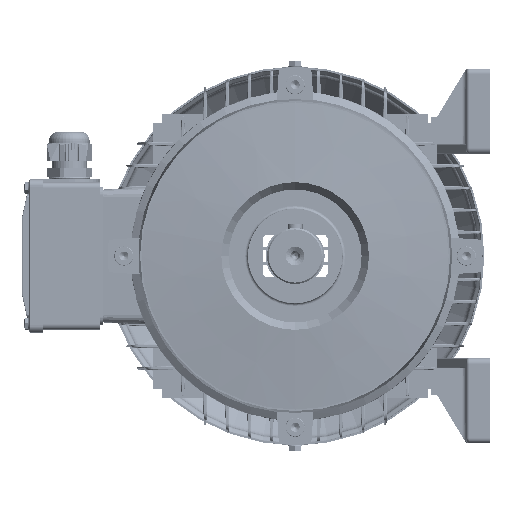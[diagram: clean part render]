
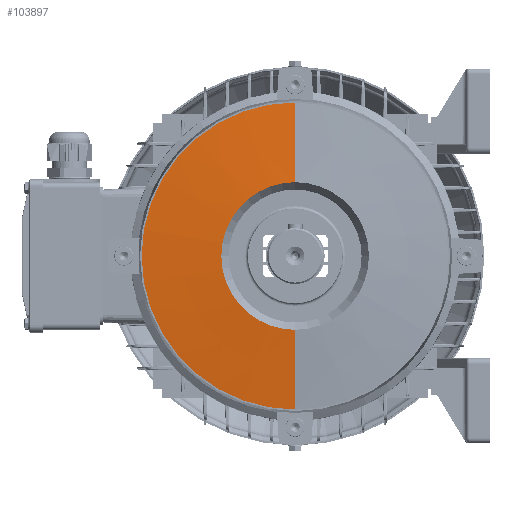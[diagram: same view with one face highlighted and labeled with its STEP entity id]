
A CAD part, left-side view. The second image highlights one B-rep face of the part: STEP entity #103897.
In plain terms, the highlighted conical face has half-angle 84.71 degrees and reference radius 104 mm.
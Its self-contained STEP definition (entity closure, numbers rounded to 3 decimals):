
#1536 = DIRECTION ( 'NONE',  ( -1., 0., 0. ) ) ;
#2213 = CARTESIAN_POINT ( 'NONE',  ( -8., 0., -104. ) ) ;
#3119 = ORIENTED_EDGE ( 'NONE', *, *, #77546, .F. ) ;
#8039 = EDGE_CURVE ( 'NONE', #22154, #135279, #122280, .T. ) ;
#10344 = CIRCLE ( 'NONE', #140177, 104. ) ;
#12281 = CONICAL_SURFACE ( 'NONE', #79478, 104., 1.478 ) ;
#22154 = VERTEX_POINT ( 'NONE', #83812 ) ;
#27076 = ORIENTED_EDGE ( 'NONE', *, *, #80352, .T. ) ;
#36102 = CARTESIAN_POINT ( 'NONE',  ( -8., 0., 0. ) ) ;
#41076 = VERTEX_POINT ( 'NONE', #66640 ) ;
#41285 = DIRECTION ( 'NONE',  ( 0.092, 0., -0.996 ) ) ;
#47767 = CARTESIAN_POINT ( 'NONE',  ( -13., 0., 50. ) ) ;
#54412 = EDGE_CURVE ( 'NONE', #41076, #135279, #10344, .T. ) ;
#56931 = DIRECTION ( 'NONE',  ( 1., 0., 0. ) ) ;
#57456 = DIRECTION ( 'NONE',  ( 0., 0., -1. ) ) ;
#59204 = VECTOR ( 'NONE', #41285, 1000. ) ;
#59308 = CIRCLE ( 'NONE', #98179, 50. ) ;
#60905 = DIRECTION ( 'NONE',  ( 0., 0., 1. ) ) ;
#66602 = CARTESIAN_POINT ( 'NONE',  ( -8., 0., -104. ) ) ;
#66640 = CARTESIAN_POINT ( 'NONE',  ( -8., 0., 104. ) ) ;
#70287 = VERTEX_POINT ( 'NONE', #47767 ) ;
#77546 = EDGE_CURVE ( 'NONE', #70287, #22154, #59308, .T. ) ;
#79478 = AXIS2_PLACEMENT_3D ( 'NONE', #116529, #56931, #57456 ) ;
#80352 = EDGE_CURVE ( 'NONE', #70287, #41076, #143987, .T. ) ;
#81136 = ORIENTED_EDGE ( 'NONE', *, *, #8039, .F. ) ;
#83812 = CARTESIAN_POINT ( 'NONE',  ( -13., 0., -50. ) ) ;
#98179 = AXIS2_PLACEMENT_3D ( 'NONE', #126413, #126918, #137348 ) ;
#103897 = ADVANCED_FACE ( 'NONE', ( #130794 ), #12281, .T. ) ;
#108458 = EDGE_LOOP ( 'NONE', ( #3119, #27076, #127534, #81136 ) ) ;
#116527 = DIRECTION ( 'NONE',  ( 0.092, 0., 0.996 ) ) ;
#116529 = CARTESIAN_POINT ( 'NONE',  ( -8., 0., 0. ) ) ;
#122280 = LINE ( 'NONE', #66602, #59204 ) ;
#125388 = VECTOR ( 'NONE', #116527, 1000. ) ;
#126413 = CARTESIAN_POINT ( 'NONE',  ( -13., 0., 0. ) ) ;
#126918 = DIRECTION ( 'NONE',  ( -1., 0., 0. ) ) ;
#127534 = ORIENTED_EDGE ( 'NONE', *, *, #54412, .T. ) ;
#130794 = FACE_OUTER_BOUND ( 'NONE', #108458, .T. ) ;
#135279 = VERTEX_POINT ( 'NONE', #2213 ) ;
#137348 = DIRECTION ( 'NONE',  ( 0., 0., 1. ) ) ;
#140177 = AXIS2_PLACEMENT_3D ( 'NONE', #36102, #1536, #60905 ) ;
#143987 = LINE ( 'NONE', #151246, #125388 ) ;
#151246 = CARTESIAN_POINT ( 'NONE',  ( -8., 0., 104. ) ) ;
